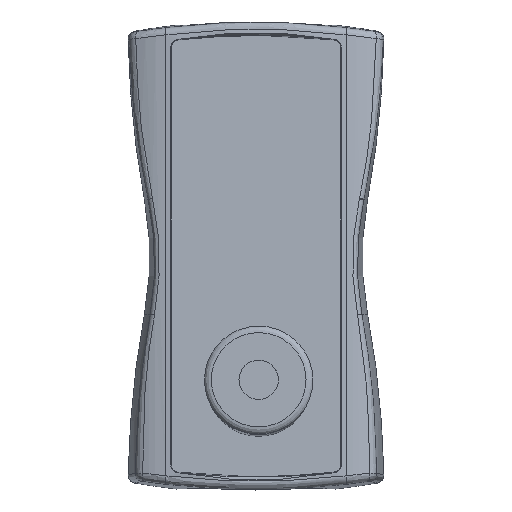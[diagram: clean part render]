
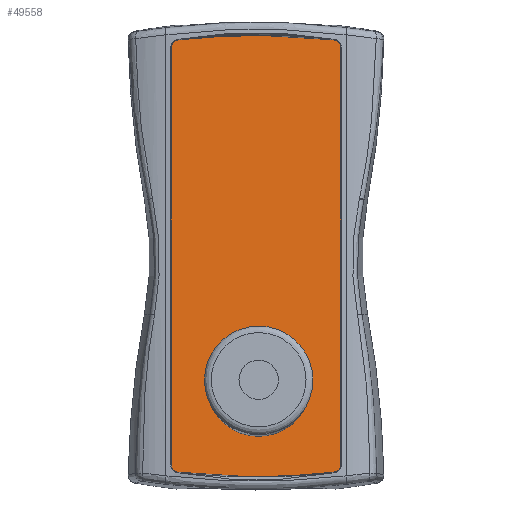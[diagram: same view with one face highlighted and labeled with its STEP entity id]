
A CAD part, top view. The second image highlights one B-rep face of the part: STEP entity #49558.
In plain terms, the highlighted planar face has unit normal (0, 0.087, 0.996) as drawn and (0, 0.087, -0.996) by its records, which use the part's own axes.
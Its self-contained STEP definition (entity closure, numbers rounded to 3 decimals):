
#49443=CARTESIAN_POINT('',(0.0,59.812,-6.156));
#49444=DIRECTION('',(0.0,-0.087,0.996));
#49445=DIRECTION('',(1.0,0.0,0.0));
#49446=AXIS2_PLACEMENT_3D('',#49443,#49444,#49445);
#49447=PLANE('',#49446);
#49448=CARTESIAN_POINT('',(21.5,53.161,-6.738));
#49449=VERTEX_POINT('',#49448);
#49450=CARTESIAN_POINT('',(21.5,-52.661,-15.996));
#49451=VERTEX_POINT('',#49450);
#49452=CARTESIAN_POINT('',(21.5,53.161,-6.738));
#49453=DIRECTION('',(0.,-0.996,-0.087));
#49454=VECTOR('',#49453,106.225);
#49455=LINE('',#49452,#49454);
#49456=EDGE_CURVE('',#49449,#49451,#49455,.T.);
#49457=ORIENTED_EDGE('',*,*,#49456,.T.);
#49458=CARTESIAN_POINT('',(19.744,-54.639,-16.169));
#49459=VERTEX_POINT('',#49458);
#49460=CARTESIAN_POINT('',(21.5,-52.661,-15.996));
#49461=CARTESIAN_POINT('',(21.5,-52.818,-16.01));
#49462=CARTESIAN_POINT('',(21.481,-52.975,-16.024));
#49463=CARTESIAN_POINT('',(21.409,-53.282,-16.051));
#49464=CARTESIAN_POINT('',(21.354,-53.431,-16.064));
#49465=CARTESIAN_POINT('',(21.168,-53.797,-16.096));
#49466=CARTESIAN_POINT('',(21.01,-54.,-16.114));
#49467=CARTESIAN_POINT('',(20.67,-54.297,-16.14));
#49468=CARTESIAN_POINT('',(20.501,-54.404,-16.149));
#49469=CARTESIAN_POINT('',(20.136,-54.565,-16.163));
#49470=CARTESIAN_POINT('',(19.942,-54.617,-16.168));
#49471=CARTESIAN_POINT('',(19.744,-54.639,-16.169));
#49472=B_SPLINE_CURVE_WITH_KNOTS('',3,(#49460,#49461,#49462,#49463,#49464,#49465,#49466,#49467,#49468,#49469,#49470,#49471),.UNSPECIFIED.,.F.,.U.,(4,2,2,2,2,4),(-0.291,-0.243,-0.195,-0.119,-0.06,0.0),.UNSPECIFIED.);
#49473=EDGE_CURVE('',#49451,#49459,#49472,.T.);
#49474=ORIENTED_EDGE('',*,*,#49473,.T.);
#49475=CARTESIAN_POINT('',(-19.744,-54.639,-16.169));
#49476=VERTEX_POINT('',#49475);
#49477=CARTESIAN_POINT('',(19.744,-54.639,-16.169));
#49478=CARTESIAN_POINT('',(14.132,-55.273,-16.225));
#49479=CARTESIAN_POINT('',(8.493,-55.636,-16.257));
#49480=CARTESIAN_POINT('',(2.843,-55.727,-16.265));
#49481=CARTESIAN_POINT('',(-4.697,-55.849,-16.275));
#49482=CARTESIAN_POINT('',(-12.249,-55.485,-16.244));
#49483=CARTESIAN_POINT('',(-19.744,-54.639,-16.169));
#49484=B_SPLINE_CURVE_WITH_KNOTS('',3,(#49477,#49478,#49479,#49480,#49481,#49482,#49483),.UNSPECIFIED.,.F.,.U.,(4,3,4),(0.,1.694,3.955),.UNSPECIFIED.);
#49485=EDGE_CURVE('',#49459,#49476,#49484,.T.);
#49486=ORIENTED_EDGE('',*,*,#49485,.T.);
#49487=CARTESIAN_POINT('',(-21.5,-52.661,-15.996));
#49488=VERTEX_POINT('',#49487);
#49489=CARTESIAN_POINT('',(-19.744,-54.639,-16.169));
#49490=CARTESIAN_POINT('',(-19.9,-54.621,-16.168));
#49491=CARTESIAN_POINT('',(-20.053,-54.585,-16.165));
#49492=CARTESIAN_POINT('',(-20.346,-54.478,-16.155));
#49493=CARTESIAN_POINT('',(-20.487,-54.408,-16.149));
#49494=CARTESIAN_POINT('',(-20.818,-54.187,-16.13));
#49495=CARTESIAN_POINT('',(-21.007,-54.007,-16.114));
#49496=CARTESIAN_POINT('',(-21.27,-53.616,-16.08));
#49497=CARTESIAN_POINT('',(-21.356,-53.435,-16.064));
#49498=CARTESIAN_POINT('',(-21.471,-53.055,-16.031));
#49499=CARTESIAN_POINT('',(-21.5,-52.858,-16.014));
#49500=CARTESIAN_POINT('',(-21.5,-52.661,-15.996));
#49501=B_SPLINE_CURVE_WITH_KNOTS('',3,(#49489,#49490,#49491,#49492,#49493,#49494,#49495,#49496,#49497,#49498,#49499,#49500),.UNSPECIFIED.,.F.,.U.,(4,2,2,2,2,4),(-0.307,-0.254,-0.201,-0.119,-0.059,0.0),.UNSPECIFIED.);
#49502=EDGE_CURVE('',#49476,#49488,#49501,.T.);
#49503=ORIENTED_EDGE('',*,*,#49502,.T.);
#49504=CARTESIAN_POINT('',(-21.5,53.161,-6.738));
#49505=VERTEX_POINT('',#49504);
#49506=CARTESIAN_POINT('',(-21.5,-52.661,-15.996));
#49507=DIRECTION('',(0.0,0.996,0.087));
#49508=VECTOR('',#49507,106.225);
#49509=LINE('',#49506,#49508);
#49510=EDGE_CURVE('',#49488,#49505,#49509,.T.);
#49511=ORIENTED_EDGE('',*,*,#49510,.T.);
#49512=CARTESIAN_POINT('',(-19.717,55.142,-6.565));
#49513=VERTEX_POINT('',#49512);
#49514=CARTESIAN_POINT('',(-21.5,53.161,-6.738));
#49515=CARTESIAN_POINT('',(-21.5,53.318,-6.724));
#49516=CARTESIAN_POINT('',(-21.481,53.475,-6.711));
#49517=CARTESIAN_POINT('',(-21.407,53.78,-6.684));
#49518=CARTESIAN_POINT('',(-21.352,53.928,-6.671));
#49519=CARTESIAN_POINT('',(-21.168,54.285,-6.64));
#49520=CARTESIAN_POINT('',(-21.009,54.494,-6.622));
#49521=CARTESIAN_POINT('',(-20.649,54.802,-6.595));
#49522=CARTESIAN_POINT('',(-20.478,54.909,-6.585));
#49523=CARTESIAN_POINT('',(-20.11,55.068,-6.571));
#49524=CARTESIAN_POINT('',(-19.916,55.12,-6.567));
#49525=CARTESIAN_POINT('',(-19.717,55.142,-6.565));
#49526=B_SPLINE_CURVE_WITH_KNOTS('',3,(#49514,#49515,#49516,#49517,#49518,#49519,#49520,#49521,#49522,#49523,#49524,#49525),.UNSPECIFIED.,.F.,.U.,(4,2,2,2,2,4),(-0.308,-0.255,-0.202,-0.12,-0.06,0.0),.UNSPECIFIED.);
#49527=EDGE_CURVE('',#49505,#49513,#49526,.T.);
#49528=ORIENTED_EDGE('',*,*,#49527,.T.);
#49529=CARTESIAN_POINT('',(19.717,55.142,-6.565));
#49530=VERTEX_POINT('',#49529);
#49531=CARTESIAN_POINT('',(-19.717,55.142,-6.565));
#49532=CARTESIAN_POINT('',(-14.115,55.774,-6.51));
#49533=CARTESIAN_POINT('',(-8.484,56.136,-6.478));
#49534=CARTESIAN_POINT('',(-2.844,56.227,-6.47));
#49535=CARTESIAN_POINT('',(4.687,56.349,-6.459));
#49536=CARTESIAN_POINT('',(12.231,55.986,-6.491));
#49537=CARTESIAN_POINT('',(19.717,55.142,-6.565));
#49538=B_SPLINE_CURVE_WITH_KNOTS('',3,(#49531,#49532,#49533,#49534,#49535,#49536,#49537),.UNSPECIFIED.,.F.,.U.,(4,3,4),(0.,1.692,3.95),.UNSPECIFIED.);
#49539=EDGE_CURVE('',#49513,#49530,#49538,.T.);
#49540=ORIENTED_EDGE('',*,*,#49539,.T.);
#49541=CARTESIAN_POINT('',(19.717,55.142,-6.565));
#49542=CARTESIAN_POINT('',(19.875,55.124,-6.566));
#49543=CARTESIAN_POINT('',(20.03,55.088,-6.57));
#49544=CARTESIAN_POINT('',(20.327,54.98,-6.579));
#49545=CARTESIAN_POINT('',(20.47,54.909,-6.585));
#49546=CARTESIAN_POINT('',(20.805,54.688,-6.605));
#49547=CARTESIAN_POINT('',(20.996,54.509,-6.62));
#49548=CARTESIAN_POINT('',(21.263,54.121,-6.654));
#49549=CARTESIAN_POINT('',(21.351,53.941,-6.67));
#49550=CARTESIAN_POINT('',(21.47,53.559,-6.703));
#49551=CARTESIAN_POINT('',(21.5,53.36,-6.721));
#49552=CARTESIAN_POINT('',(21.5,53.161,-6.738));
#49553=B_SPLINE_CURVE_WITH_KNOTS('',3,(#49541,#49542,#49543,#49544,#49545,#49546,#49547,#49548,#49549,#49550,#49551,#49552),.UNSPECIFIED.,.F.,.U.,(4,2,2,2,2,4),(-0.308,-0.255,-0.201,-0.12,-0.06,0.0),.UNSPECIFIED.);
#49554=EDGE_CURVE('',#49530,#49449,#49553,.T.);
#49555=ORIENTED_EDGE('',*,*,#49554,.T.);
#49556=EDGE_LOOP('',(#49457,#49474,#49486,#49503,#49511,#49528,#49540,#49555));
#49557=FACE_OUTER_BOUND('',#49556,.T.);
#49558=ADVANCED_FACE('',(#49557),#49447,.F.);
